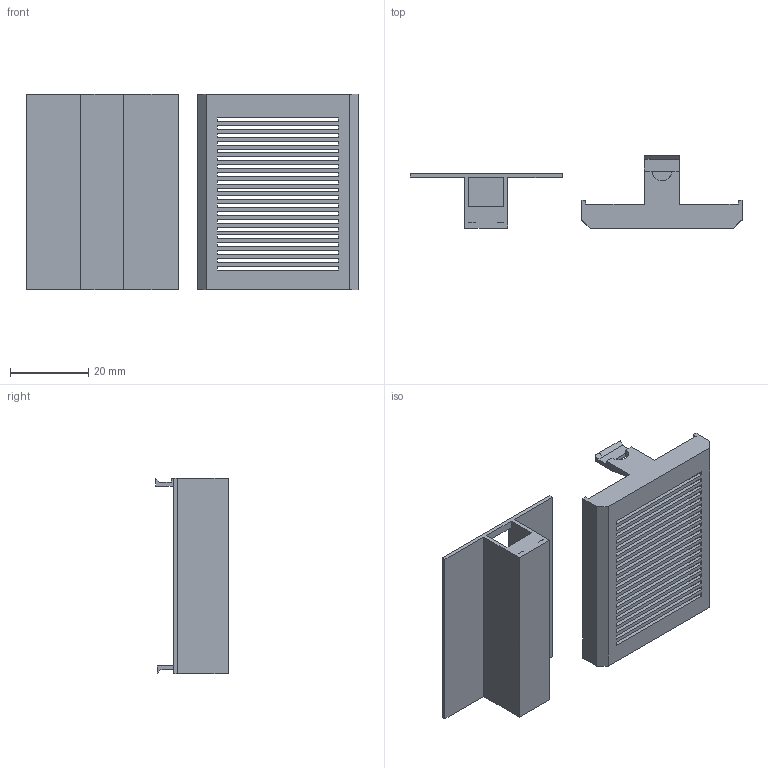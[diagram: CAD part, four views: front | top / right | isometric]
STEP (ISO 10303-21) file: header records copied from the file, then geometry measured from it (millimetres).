
FILE_DESCRIPTION(/* description */ (''),/* implementation_level */ '2;1');
FILE_NAME(/* name */ 'C:/Users/xxx/Documents/Arduino/openAger/Sensorhousing/Sensorgehäuse v13.step',/* time_stamp */ '2019-02-07T07:46:45+01:00',/* author */ ('valkicom'),/* organization */ (''),/* preprocessor_version */ 'ST-DEVELOPER v17',/* originating_system */ 'Autodesk Translation Framework v7.1.0.215',/* authorisation */ '');
FILE_SCHEMA (('AUTOMOTIVE_DESIGN { 1 0 10303 214 3 1 1 }'));
Length unit declared in the file: millimetre
Products named in the file (1): Sensorgehäuse
Bounding box: 85 x 18.57 x 50 mm (x, y, z)
Volume: 6186.2 mm3; surface area: 13768.4 mm2
Topology: 2 solids, 2 shells, 163 faces, 481 edges, 318 vertices
Faces by surface type: plane 160, cylinder 3
Full cylindrical faces by diameter (mm): 1.5 x2
Entity records: 5451 total; most frequent: CARTESIAN_POINT 963, ORIENTED_EDGE 962, DIRECTION 817, EDGE_CURVE 481, LINE 473, VECTOR 473, VERTEX_POINT 318, EDGE_LOOP 211
